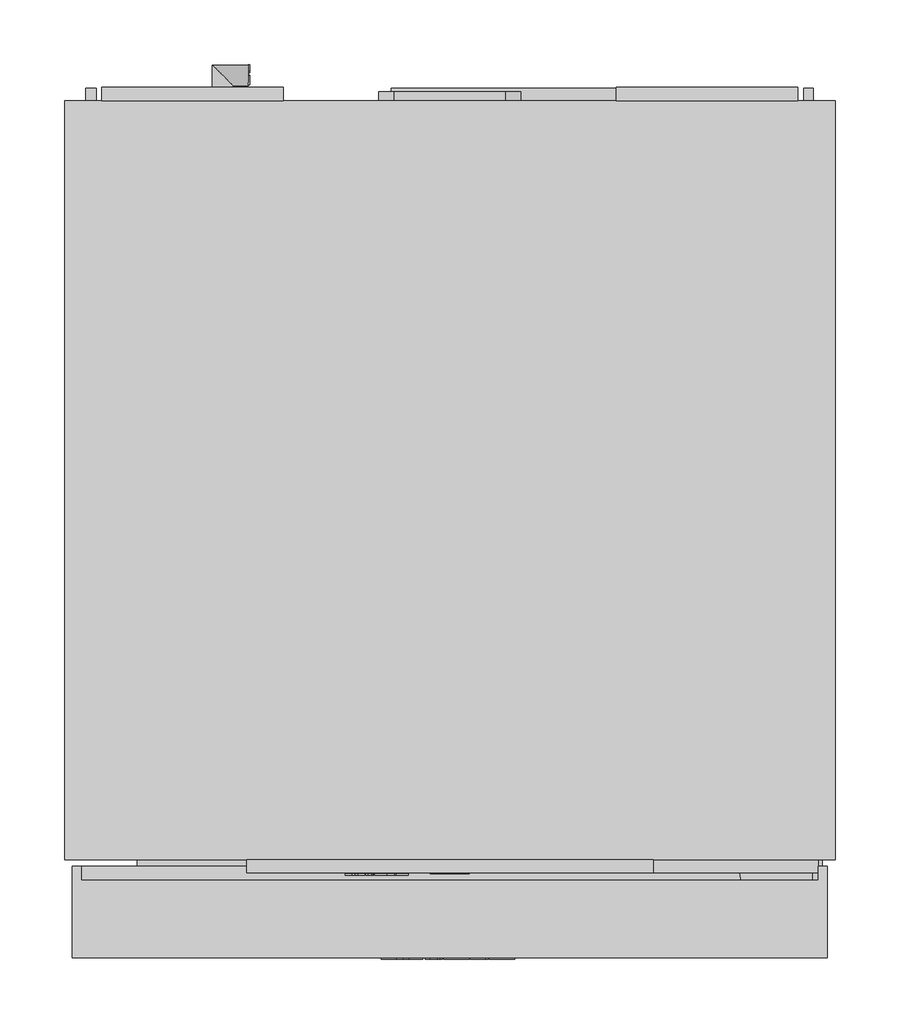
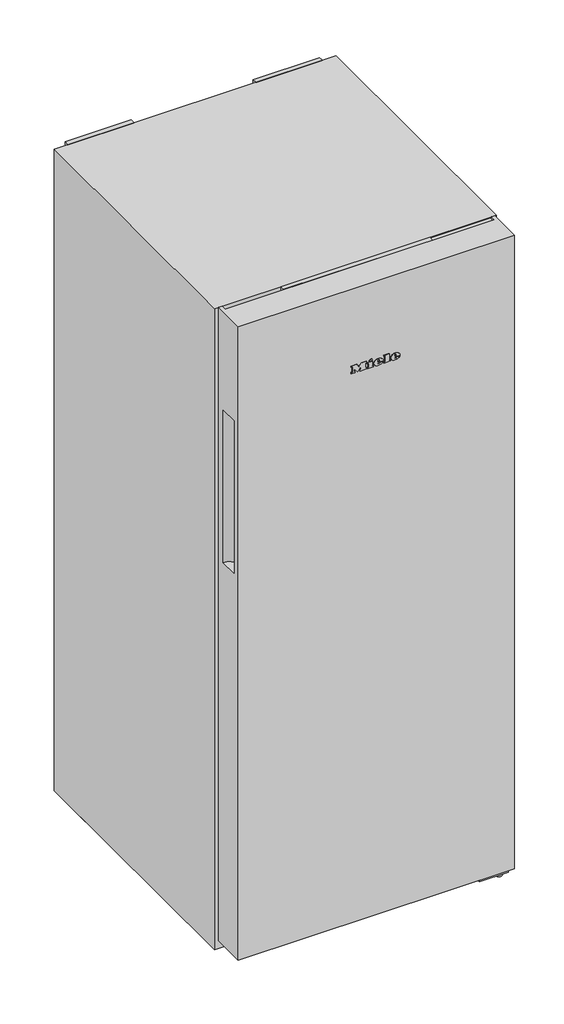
# Not in any storey: 1 proxy.
"""IFC4 building model written with IfcOpenShell, lengths in millimetres."""

from ifc_helpers import new_model, si_unit, origin, place, context, project, spatial, transform, mapped, element, save
from components import specialty_equipment_c1b698a8

model = new_model("IFC4")

# Units and contexts
model_context = context("Model", 3, world=origin())
ifc_project = project(units=[si_unit("LENGTHUNIT", "METRE", prefix="MILLI")], contexts=[model_context])

# Site, building
site = spatial("IfcSite", under=ifc_project)
building = spatial("IfcBuilding", under=site)

# Proxy
placement = place(None, origin())
specialty_equipment_shape = specialty_equipment_c1b698a8(model_context)
element("IfcBuildingElementProxy", 1, Name="12665170_EU1_FN4322C_WS : 37432234_EU1_12665170_FN4322C_WS", ObjectType="12665170_EU1_FN4322C_WS : 37432234_EU1_12665170_FN4322C_WS", at=placement, inside=building, context=model_context, shape_type="MappedRepresentation", body=[
    mapped(specialty_equipment_shape, transform((0.0, 0.0, 0.0), x_axis=(1.0, 0.0, 0.0), y_axis=(0.0, 1.0, 0.0), z_axis=(0.0, 0.0, 1.0))),
])

save(model, "model.ifc")
